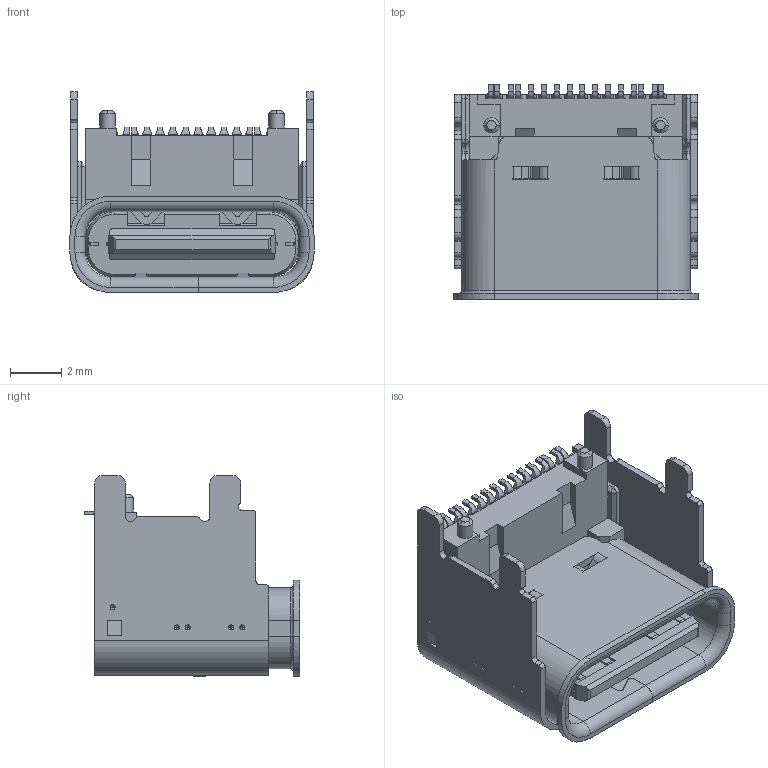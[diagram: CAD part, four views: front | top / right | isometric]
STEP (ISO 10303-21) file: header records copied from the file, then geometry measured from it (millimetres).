
FILE_DESCRIPTION (( 'STEP AP203' ), '1' );
FILE_NAME ('GT-USB-7016C01.stp', '2023-05-30T02:54:05', ( '' ), ( '' ), 'SwSTEP 2.0', 'SolidWorks 2023', '' );
FILE_SCHEMA (( 'CONFIG_CONTROL_DESIGN' ));
Length unit declared in the file: millimetre
Products named in the file (1): GT-USB-7016C01
Bounding box: 9.54 x 8.4 x 7.85 mm (x, y, z)
Volume: 189.2 mm3; surface area: 1040.4 mm2
Topology: 1 solids, 9 shells, 1979 faces, 5854 edges, 3773 vertices
Faces by surface type: plane 1353, cylinder 447, bspline 98, sphere 29, cone 28, torus 24
Entity records: 70325 total; most frequent: CARTESIAN_POINT 17786, ORIENTED_EDGE 11612, DIRECTION 10116, EDGE_CURVE 5806, LINE 4454, VECTOR 4454, VERTEX_POINT 3773, AXIS2_PLACEMENT_3D 2831
